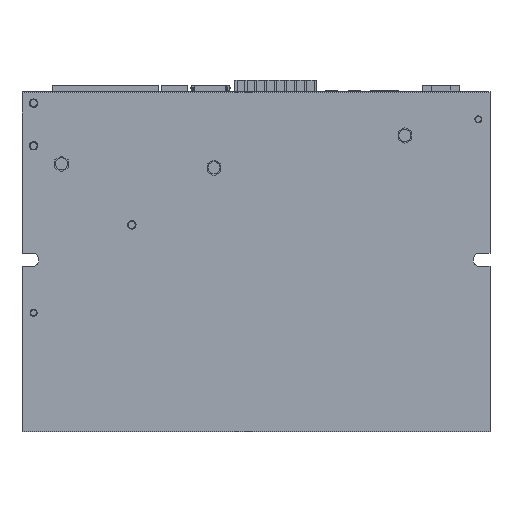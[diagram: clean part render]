
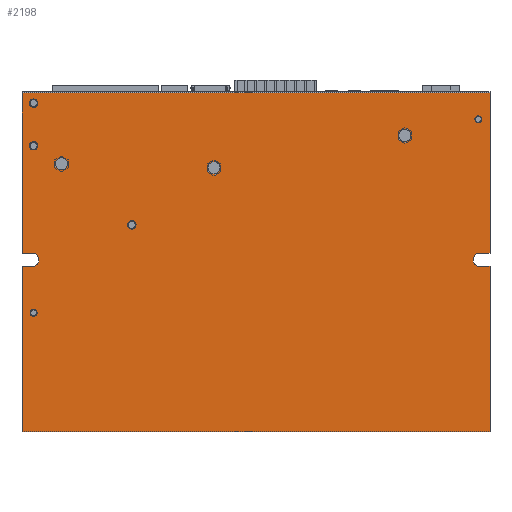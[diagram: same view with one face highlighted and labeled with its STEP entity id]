
A CAD part, front view. The second image highlights one B-rep face of the part: STEP entity #2198.
In plain terms, the highlighted planar face has unit normal (0, -1, 0).
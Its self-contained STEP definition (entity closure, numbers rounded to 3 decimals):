
#73=DIRECTION('',(0.,0.,-1.));
#74=VECTOR('',#73,58.35);
#75=CARTESIAN_POINT('',(-82.5,8.3,7.35));
#76=LINE('',#75,#74);
#164=DIRECTION('',(0.,0.,-1.));
#165=VECTOR('',#164,56.45);
#166=CARTESIAN_POINT('',(-82.5,8.3,68.5));
#167=LINE('',#166,#165);
#310=DIRECTION('',(0.,0.,-1.));
#311=VECTOR('',#310,56.45);
#312=CARTESIAN_POINT('',(82.5,8.3,68.5));
#313=LINE('',#312,#311);
#394=DIRECTION('',(0.,0.,-1.));
#395=VECTOR('',#394,58.35);
#396=CARTESIAN_POINT('',(82.5,8.3,7.35));
#397=LINE('',#396,#395);
#444=DIRECTION('',(1.,0.,0.));
#445=VECTOR('',#444,165.);
#446=CARTESIAN_POINT('',(-82.5,8.3,-51.));
#447=LINE('',#446,#445);
#512=CARTESIAN_POINT('',(78.9,8.3,9.7));
#513=DIRECTION('',(0.,1.,0.));
#514=DIRECTION('',(0.,0.,-1.));
#515=AXIS2_PLACEMENT_3D('',#512,#513,#514);
#520=DIRECTION('',(-1.,0.,0.));
#521=VECTOR('',#520,3.6);
#522=CARTESIAN_POINT('',(82.5,8.3,7.35));
#523=LINE('',#522,#521);
#527=DIRECTION('',(1.,0.,0.));
#528=VECTOR('',#527,3.6);
#529=CARTESIAN_POINT('',(-82.5,8.3,7.35));
#530=LINE('',#529,#528);
#534=CARTESIAN_POINT('',(-78.9,8.3,9.7));
#535=DIRECTION('',(0.,1.,0.));
#536=DIRECTION('',(0.,0.,1.));
#537=AXIS2_PLACEMENT_3D('',#534,#535,#536);
#542=DIRECTION('',(1.,0.,0.));
#543=VECTOR('',#542,3.6);
#544=CARTESIAN_POINT('',(-82.5,8.3,12.05));
#545=LINE('',#544,#543);
#549=DIRECTION('',(-1.,0.,0.));
#550=VECTOR('',#549,165.);
#551=CARTESIAN_POINT('',(82.5,8.3,68.5));
#552=LINE('',#551,#550);
#556=DIRECTION('',(-1.,0.,0.));
#557=VECTOR('',#556,3.6);
#558=CARTESIAN_POINT('',(82.5,8.3,12.05));
#559=LINE('',#558,#557);
#563=CARTESIAN_POINT('',(-68.6,8.3,43.5));
#564=DIRECTION('',(0.,1.,0.));
#565=DIRECTION('',(1.,0.,0.));
#566=AXIS2_PLACEMENT_3D('',#563,#564,#565);
#571=CARTESIAN_POINT('',(-68.6,8.3,43.5));
#572=DIRECTION('',(0.,1.,0.));
#573=DIRECTION('',(-1.,0.,0.));
#574=AXIS2_PLACEMENT_3D('',#571,#572,#573);
#579=CARTESIAN_POINT('',(-14.8,8.3,42.1));
#580=DIRECTION('',(0.,1.,0.));
#581=DIRECTION('',(1.,0.,0.));
#582=AXIS2_PLACEMENT_3D('',#579,#580,#581);
#587=CARTESIAN_POINT('',(-14.8,8.3,42.1));
#588=DIRECTION('',(0.,1.,0.));
#589=DIRECTION('',(-1.,0.,0.));
#590=AXIS2_PLACEMENT_3D('',#587,#588,#589);
#595=CARTESIAN_POINT('',(52.5,8.3,53.5));
#596=DIRECTION('',(0.,1.,0.));
#597=DIRECTION('',(1.,0.,0.));
#598=AXIS2_PLACEMENT_3D('',#595,#596,#597);
#603=CARTESIAN_POINT('',(52.5,8.3,53.5));
#604=DIRECTION('',(0.,1.,0.));
#605=DIRECTION('',(-1.,0.,0.));
#606=AXIS2_PLACEMENT_3D('',#603,#604,#605);
#611=CARTESIAN_POINT('',(-43.8,8.3,22.));
#612=DIRECTION('',(0.,1.,0.));
#613=DIRECTION('',(1.,0.,0.));
#614=AXIS2_PLACEMENT_3D('',#611,#612,#613);
#619=CARTESIAN_POINT('',(-43.8,8.3,22.));
#620=DIRECTION('',(0.,1.,0.));
#621=DIRECTION('',(-1.,0.,0.));
#622=AXIS2_PLACEMENT_3D('',#619,#620,#621);
#627=CARTESIAN_POINT('',(78.4,8.3,59.2));
#628=DIRECTION('',(0.,1.,0.));
#629=DIRECTION('',(1.,0.,0.));
#630=AXIS2_PLACEMENT_3D('',#627,#628,#629);
#635=CARTESIAN_POINT('',(78.4,8.3,59.2));
#636=DIRECTION('',(0.,1.,0.));
#637=DIRECTION('',(-1.,0.,0.));
#638=AXIS2_PLACEMENT_3D('',#635,#636,#637);
#643=CARTESIAN_POINT('',(-78.4,8.3,-9.));
#644=DIRECTION('',(0.,1.,0.));
#645=DIRECTION('',(1.,0.,0.));
#646=AXIS2_PLACEMENT_3D('',#643,#644,#645);
#651=CARTESIAN_POINT('',(-78.4,8.3,-9.));
#652=DIRECTION('',(0.,1.,0.));
#653=DIRECTION('',(-1.,0.,0.));
#654=AXIS2_PLACEMENT_3D('',#651,#652,#653);
#659=CARTESIAN_POINT('',(-78.4,8.3,64.9));
#660=DIRECTION('',(0.,1.,0.));
#661=DIRECTION('',(1.,0.,0.));
#662=AXIS2_PLACEMENT_3D('',#659,#660,#661);
#667=CARTESIAN_POINT('',(-78.4,8.3,64.9));
#668=DIRECTION('',(0.,1.,0.));
#669=DIRECTION('',(-1.,0.,0.));
#670=AXIS2_PLACEMENT_3D('',#667,#668,#669);
#675=CARTESIAN_POINT('',(-78.4,8.3,49.9));
#676=DIRECTION('',(0.,1.,0.));
#677=DIRECTION('',(1.,0.,0.));
#678=AXIS2_PLACEMENT_3D('',#675,#676,#677);
#683=CARTESIAN_POINT('',(-78.4,8.3,49.9));
#684=DIRECTION('',(0.,1.,0.));
#685=DIRECTION('',(-1.,0.,0.));
#686=AXIS2_PLACEMENT_3D('',#683,#684,#685);
#1650=CARTESIAN_POINT('',(-82.5,8.3,-51.));
#1651=CARTESIAN_POINT('',(82.5,8.3,-51.));
#1652=VERTEX_POINT('',#1650);
#1653=VERTEX_POINT('',#1651);
#1662=CARTESIAN_POINT('',(-82.5,8.3,68.5));
#1664=VERTEX_POINT('',#1662);
#1668=CARTESIAN_POINT('',(82.5,8.3,68.5));
#1669=VERTEX_POINT('',#1668);
#1682=CARTESIAN_POINT('',(-66.475,8.3,43.5));
#1683=CARTESIAN_POINT('',(-70.725,8.3,43.5));
#1684=VERTEX_POINT('',#1682);
#1685=VERTEX_POINT('',#1683);
#1686=CARTESIAN_POINT('',(-12.675,8.3,42.1));
#1687=CARTESIAN_POINT('',(-16.925,8.3,42.1));
#1688=VERTEX_POINT('',#1686);
#1689=VERTEX_POINT('',#1687);
#1690=CARTESIAN_POINT('',(-42.55,8.3,22.));
#1691=CARTESIAN_POINT('',(-45.05,8.3,22.));
#1692=VERTEX_POINT('',#1690);
#1693=VERTEX_POINT('',#1691);
#1702=CARTESIAN_POINT('',(54.625,8.3,53.5));
#1703=CARTESIAN_POINT('',(50.375,8.3,53.5));
#1704=VERTEX_POINT('',#1702);
#1705=VERTEX_POINT('',#1703);
#1706=CARTESIAN_POINT('',(-82.5,8.3,7.35));
#1708=VERTEX_POINT('',#1706);
#1710=CARTESIAN_POINT('',(-82.5,8.3,12.05));
#1712=VERTEX_POINT('',#1710);
#1714=CARTESIAN_POINT('',(82.5,8.3,12.05));
#1716=VERTEX_POINT('',#1714);
#1718=CARTESIAN_POINT('',(82.5,8.3,7.35));
#1720=VERTEX_POINT('',#1718);
#1730=CARTESIAN_POINT('',(78.9,8.3,7.35));
#1731=CARTESIAN_POINT('',(78.9,8.3,12.05));
#1732=VERTEX_POINT('',#1730);
#1733=VERTEX_POINT('',#1731);
#1734=CARTESIAN_POINT('',(-78.9,8.3,7.35));
#1735=VERTEX_POINT('',#1734);
#1736=CARTESIAN_POINT('',(-78.9,8.3,12.05));
#1737=VERTEX_POINT('',#1736);
#1742=CARTESIAN_POINT('',(79.425,8.3,59.2));
#1743=CARTESIAN_POINT('',(77.375,8.3,59.2));
#1744=VERTEX_POINT('',#1742);
#1745=VERTEX_POINT('',#1743);
#1750=CARTESIAN_POINT('',(-77.375,8.3,-9.));
#1751=CARTESIAN_POINT('',(-79.425,8.3,-9.));
#1752=VERTEX_POINT('',#1750);
#1753=VERTEX_POINT('',#1751);
#1754=CARTESIAN_POINT('',(-77.15,8.3,64.9));
#1755=CARTESIAN_POINT('',(-79.65,8.3,64.9));
#1756=VERTEX_POINT('',#1754);
#1757=VERTEX_POINT('',#1755);
#1774=CARTESIAN_POINT('',(-77.15,8.3,49.9));
#1775=CARTESIAN_POINT('',(-79.65,8.3,49.9));
#1776=VERTEX_POINT('',#1774);
#1777=VERTEX_POINT('',#1775);
#2124=CARTESIAN_POINT('',(-82.5,8.3,69.));
#2125=DIRECTION('',(0.,-1.,0.));
#2126=DIRECTION('',(0.,0.,-1.));
#2127=AXIS2_PLACEMENT_3D('',#2124,#2125,#2126);
#2128=PLANE('',#2127);
#2130=ORIENTED_EDGE('',*,*,#2129,.F.);
#2132=ORIENTED_EDGE('',*,*,#2131,.F.);
#2133=ORIENTED_EDGE('',*,*,#2031,.T.);
#2134=ORIENTED_EDGE('',*,*,#2077,.F.);
#2135=ORIENTED_EDGE('',*,*,#1861,.F.);
#2137=ORIENTED_EDGE('',*,*,#2136,.T.);
#2139=ORIENTED_EDGE('',*,*,#2138,.F.);
#2141=ORIENTED_EDGE('',*,*,#2140,.F.);
#2142=ORIENTED_EDGE('',*,*,#1897,.F.);
#2144=ORIENTED_EDGE('',*,*,#2143,.F.);
#2145=ORIENTED_EDGE('',*,*,#1998,.T.);
#2147=ORIENTED_EDGE('',*,*,#2146,.T.);
#2148=EDGE_LOOP('',(#2130,#2132,#2133,#2134,#2135,#2137,#2139,#2141,#2142,#2144,
#2145,#2147));
#2149=FACE_OUTER_BOUND('',#2148,.F.);
#2151=ORIENTED_EDGE('',*,*,#2150,.F.);
#2153=ORIENTED_EDGE('',*,*,#2152,.F.);
#2154=EDGE_LOOP('',(#2151,#2153));
#2155=FACE_BOUND('',#2154,.F.);
#2157=ORIENTED_EDGE('',*,*,#2156,.F.);
#2159=ORIENTED_EDGE('',*,*,#2158,.F.);
#2160=EDGE_LOOP('',(#2157,#2159));
#2161=FACE_BOUND('',#2160,.F.);
#2163=ORIENTED_EDGE('',*,*,#2162,.F.);
#2165=ORIENTED_EDGE('',*,*,#2164,.F.);
#2166=EDGE_LOOP('',(#2163,#2165));
#2167=FACE_BOUND('',#2166,.F.);
#2169=ORIENTED_EDGE('',*,*,#2168,.F.);
#2171=ORIENTED_EDGE('',*,*,#2170,.F.);
#2172=EDGE_LOOP('',(#2169,#2171));
#2173=FACE_BOUND('',#2172,.F.);
#2175=ORIENTED_EDGE('',*,*,#2174,.F.);
#2177=ORIENTED_EDGE('',*,*,#2176,.F.);
#2178=EDGE_LOOP('',(#2175,#2177));
#2179=FACE_BOUND('',#2178,.F.);
#2181=ORIENTED_EDGE('',*,*,#2180,.F.);
#2183=ORIENTED_EDGE('',*,*,#2182,.F.);
#2184=EDGE_LOOP('',(#2181,#2183));
#2185=FACE_BOUND('',#2184,.F.);
#2187=ORIENTED_EDGE('',*,*,#2186,.F.);
#2189=ORIENTED_EDGE('',*,*,#2188,.F.);
#2190=EDGE_LOOP('',(#2187,#2189));
#2191=FACE_BOUND('',#2190,.F.);
#2193=ORIENTED_EDGE('',*,*,#2192,.F.);
#2195=ORIENTED_EDGE('',*,*,#2194,.F.);
#2196=EDGE_LOOP('',(#2193,#2195));
#2197=FACE_BOUND('',#2196,.F.);
#516=CIRCLE('',#515,2.35);
#538=CIRCLE('',#537,2.35);
#567=CIRCLE('',#566,2.125);
#575=CIRCLE('',#574,2.125);
#583=CIRCLE('',#582,2.125);
#591=CIRCLE('',#590,2.125);
#599=CIRCLE('',#598,2.125);
#607=CIRCLE('',#606,2.125);
#615=CIRCLE('',#614,1.25);
#623=CIRCLE('',#622,1.25);
#631=CIRCLE('',#630,1.025);
#639=CIRCLE('',#638,1.025);
#647=CIRCLE('',#646,1.025);
#655=CIRCLE('',#654,1.025);
#663=CIRCLE('',#662,1.25);
#671=CIRCLE('',#670,1.25);
#679=CIRCLE('',#678,1.25);
#687=CIRCLE('',#686,1.25);
#1861=EDGE_CURVE('',#1708,#1652,#76,.T.);
#1897=EDGE_CURVE('',#1664,#1712,#167,.T.);
#1998=EDGE_CURVE('',#1669,#1716,#313,.T.);
#2031=EDGE_CURVE('',#1720,#1653,#397,.T.);
#2077=EDGE_CURVE('',#1652,#1653,#447,.T.);
#2129=EDGE_CURVE('',#1732,#1733,#516,.T.);
#2131=EDGE_CURVE('',#1720,#1732,#523,.T.);
#2136=EDGE_CURVE('',#1708,#1735,#530,.T.);
#2138=EDGE_CURVE('',#1737,#1735,#538,.T.);
#2140=EDGE_CURVE('',#1712,#1737,#545,.T.);
#2143=EDGE_CURVE('',#1669,#1664,#552,.T.);
#2146=EDGE_CURVE('',#1716,#1733,#559,.T.);
#2150=EDGE_CURVE('',#1684,#1685,#567,.T.);
#2152=EDGE_CURVE('',#1685,#1684,#575,.T.);
#2156=EDGE_CURVE('',#1688,#1689,#583,.T.);
#2158=EDGE_CURVE('',#1689,#1688,#591,.T.);
#2162=EDGE_CURVE('',#1704,#1705,#599,.T.);
#2164=EDGE_CURVE('',#1705,#1704,#607,.T.);
#2168=EDGE_CURVE('',#1692,#1693,#615,.T.);
#2170=EDGE_CURVE('',#1693,#1692,#623,.T.);
#2174=EDGE_CURVE('',#1744,#1745,#631,.T.);
#2176=EDGE_CURVE('',#1745,#1744,#639,.T.);
#2180=EDGE_CURVE('',#1752,#1753,#647,.T.);
#2182=EDGE_CURVE('',#1753,#1752,#655,.T.);
#2186=EDGE_CURVE('',#1756,#1757,#663,.T.);
#2188=EDGE_CURVE('',#1757,#1756,#671,.T.);
#2192=EDGE_CURVE('',#1776,#1777,#679,.T.);
#2194=EDGE_CURVE('',#1777,#1776,#687,.T.);
#2198=ADVANCED_FACE('',(#2149,#2155,#2161,#2167,#2173,#2179,#2185,#2191,#2197),
#2128,.T.);
